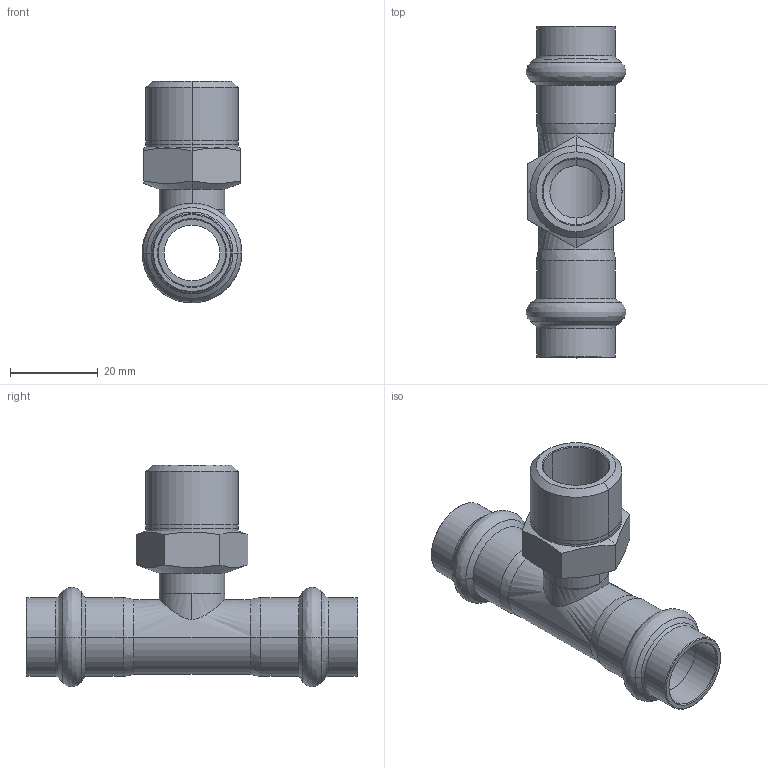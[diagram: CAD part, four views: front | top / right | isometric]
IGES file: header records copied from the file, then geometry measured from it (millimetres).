
Start section: Elysium IGES Interface
Global section: file name: C:\Users\Wallenburg\Desktop\3d modellen sudo\S-Pr VP\SP6132GV\6132GVW151215.igs; native system: CoCreate Modeling 17.00A  17-Jun-2010; preprocessor: CoCreate IGES_3D V2.2; author: Unknown; organization: Unknown; date: 20130123.153625; units: millimetre
Bounding box: 22.68 x 75.51 x 50.44 mm (x, y, z)
Volume: 11350.5 mm3; surface area: 11992.5 mm2
Topology: 1 solids, 1 shells, 115 faces, 242 edges, 134 vertices
Faces by surface type: bspline 115
